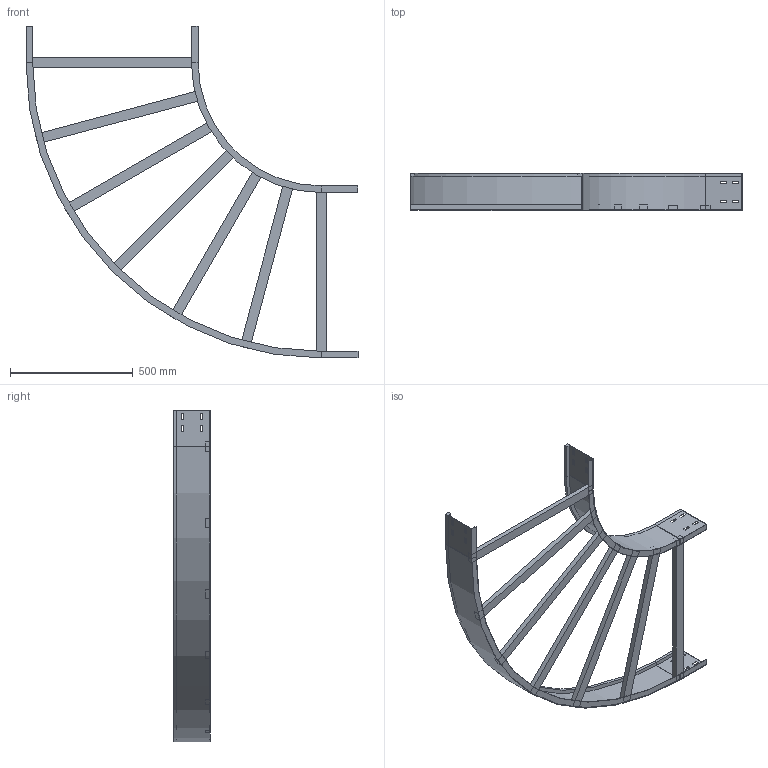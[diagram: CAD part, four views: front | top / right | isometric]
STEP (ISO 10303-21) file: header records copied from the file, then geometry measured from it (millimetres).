
FILE_DESCRIPTION (( 'STEP AP214' ), '1' );
FILE_NAME ('10J5F700.step', '2025-02-21T16:25:26', ( '' ), ( '' ), 'SwSTEP 2.0', 'SolidWorks 2023', '' );
FILE_SCHEMA (( 'AUTOMOTIVE_DESIGN' ));
Length unit declared in the file: millimetre
Products named in the file (4): LONGH.INTERNO 90°_H150_R500; 10J5F700; LONGH.ESTERNO 90°_H150_R500+700; TRAVERSINO_700
Assembly tree (9 placements, depth 2):
  10J5F700
    LONGH.INTERNO 90°_H150_R500
    LONGH.ESTERNO 90°_H150_R500+700
    TRAVERSINO_700  x7
Bounding box: 1350 x 150 x 1350 mm (x, y, z)
Volume: 5711651.7 mm3; surface area: 1860352.5 mm2
Topology: 9 solids, 9 shells, 158 faces, 388 edges, 248 vertices
Faces by surface type: plane 150, cylinder 8
Entity records: 3853 total; most frequent: CARTESIAN_POINT 650, ORIENTED_EDGE 632, DIRECTION 600, EDGE_CURVE 316, LINE 300, VECTOR 300, VERTEX_POINT 200, EDGE_LOOP 154
